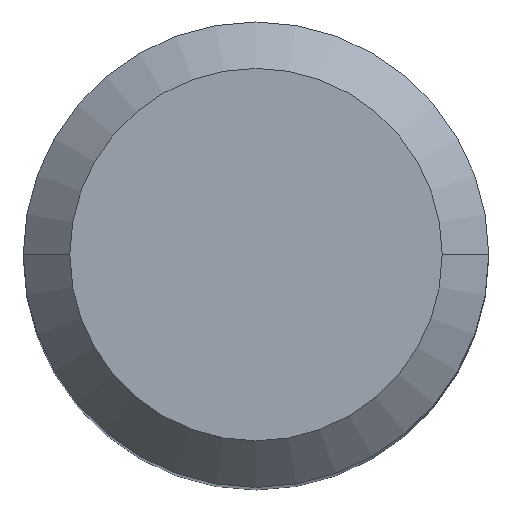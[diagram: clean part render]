
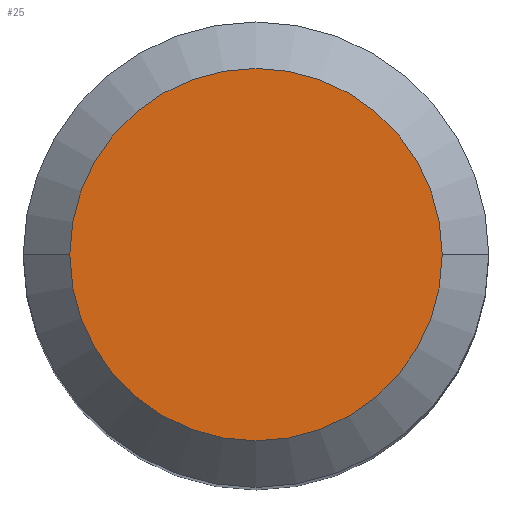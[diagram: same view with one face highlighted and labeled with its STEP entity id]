
A CAD part, top view. The second image highlights one B-rep face of the part: STEP entity #25.
In plain terms, the highlighted planar face has unit normal (0, 0, 1).
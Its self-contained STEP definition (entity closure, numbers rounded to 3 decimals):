
#11 = PLANE ( 'NONE',  #204 ) ;
#25 = ADVANCED_FACE ( 'NONE', ( #242 ), #11, .T. ) ;
#29 = CARTESIAN_POINT ( 'NONE',  ( 0., 0., 0. ) ) ;
#32 = CARTESIAN_POINT ( 'NONE',  ( -5.6, 0., 0. ) ) ;
#63 = AXIS2_PLACEMENT_3D ( 'NONE', #29, #366, #64 ) ;
#64 = DIRECTION ( 'NONE',  ( -1., 0., 0. ) ) ;
#74 = EDGE_CURVE ( 'NONE', #324, #474, #432, .T. ) ;
#185 = CARTESIAN_POINT ( 'NONE',  ( 5.6, 0., 0. ) ) ;
#204 = AXIS2_PLACEMENT_3D ( 'NONE', #470, #392, #277 ) ;
#223 = AXIS2_PLACEMENT_3D ( 'NONE', #311, #466, #425 ) ;
#242 = FACE_OUTER_BOUND ( 'NONE', #498, .T. ) ;
#257 = EDGE_CURVE ( 'NONE', #474, #324, #493, .T. ) ;
#277 = DIRECTION ( 'NONE',  ( 1., 0., 0. ) ) ;
#311 = CARTESIAN_POINT ( 'NONE',  ( 0., 0., 0. ) ) ;
#324 = VERTEX_POINT ( 'NONE', #185 ) ;
#347 = ORIENTED_EDGE ( 'NONE', *, *, #257, .F. ) ;
#366 = DIRECTION ( 'NONE',  ( 0., 0., -1. ) ) ;
#392 = DIRECTION ( 'NONE',  ( 0., 0., 1. ) ) ;
#400 = ORIENTED_EDGE ( 'NONE', *, *, #74, .F. ) ;
#425 = DIRECTION ( 'NONE',  ( -1., 0., 0. ) ) ;
#432 = CIRCLE ( 'NONE', #223, 5.6 ) ;
#466 = DIRECTION ( 'NONE',  ( 0., 0., -1. ) ) ;
#470 = CARTESIAN_POINT ( 'NONE',  ( 0., 5.6, 0. ) ) ;
#474 = VERTEX_POINT ( 'NONE', #32 ) ;
#493 = CIRCLE ( 'NONE', #63, 5.6 ) ;
#498 = EDGE_LOOP ( 'NONE', ( #347, #400 ) ) ;
